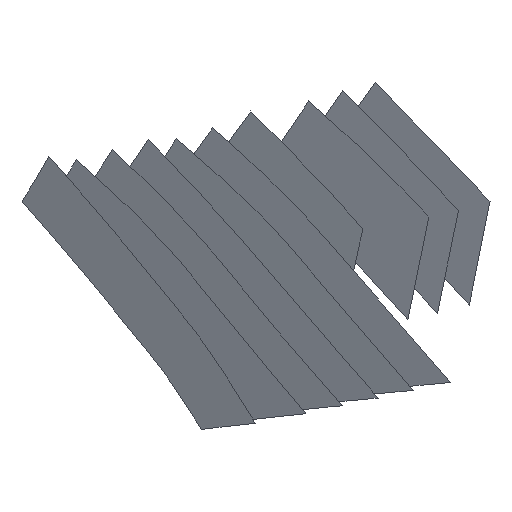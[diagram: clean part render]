
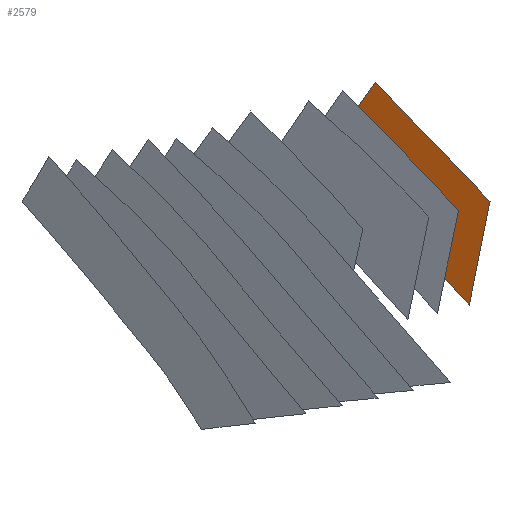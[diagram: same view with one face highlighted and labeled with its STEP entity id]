
A CAD part, front view. The second image highlights one B-rep face of the part: STEP entity #2579.
In plain terms, the highlighted free-form (B-spline) face has degree [1, 1] with [2, 2] control points.
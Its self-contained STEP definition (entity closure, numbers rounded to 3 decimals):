
#2579 = ADVANCED_FACE('',(#2580),#2593,.T.);
#2580 = FACE_BOUND('',#2581,.T.);
#2581 = EDGE_LOOP('',(#2582,#2603,#2617,#2631,#2645,#2659,#2673,#2687,
    #2701,#2715));
#2582 = ORIENTED_EDGE('',*,*,#2583,.T.);
#2583 = EDGE_CURVE('',#2584,#2586,#2588,.T.);
#2584 = VERTEX_POINT('',#2585);
#2585 = CARTESIAN_POINT('',(1572.326,-1531.356,
    1366.546));
#2586 = VERTEX_POINT('',#2587);
#2587 = CARTESIAN_POINT('',(1571.967,-1531.229,
    1366.931));
#2588 = SURFACE_CURVE('',#2589,(#2592),.PCURVE_S1.);
#2589 = B_SPLINE_CURVE_WITH_KNOTS('',1,(#2590,#2591),.UNSPECIFIED.,.F.,
  .F.,(2,2),(-0.541,-0.),.PIECEWISE_BEZIER_KNOTS.);
#2590 = CARTESIAN_POINT('',(1572.326,-1531.356,
    1366.546));
#2591 = CARTESIAN_POINT('',(1571.967,-1531.229,
    1366.931));
#2592 = PCURVE('',#2593,#2598);
#2593 = B_SPLINE_SURFACE_WITH_KNOTS('',1,1,(
    (#2594,#2595)
    ,(#2596,#2597
    )),.UNSPECIFIED.,.F.,.F.,.F.,(2,2),(2,2),(-4.96,
    5.332),(-4.087,3.538),
  .PIECEWISE_BEZIER_KNOTS.);
#2594 = CARTESIAN_POINT('',(1564.604,-1528.19,
    1371.4));
#2595 = CARTESIAN_POINT('',(1571.348,-1531.611,
    1372.381));
#2596 = CARTESIAN_POINT('',(1566.305,-1527.747,
    1361.258));
#2597 = CARTESIAN_POINT('',(1573.049,-1531.168,
    1362.24));
#2598 = DEFINITIONAL_REPRESENTATION('',(#2599),#2602);
#2599 = B_SPLINE_CURVE_WITH_KNOTS('',1,(#2600,#2601),.UNSPECIFIED.,.F.,
  .F.,(2,2),(-0.541,-0.),.PIECEWISE_BEZIER_KNOTS.);
#2600 = CARTESIAN_POINT('',(0.962,3.538));
#2601 = CARTESIAN_POINT('',(0.529,3.214));
#2602 = ( GEOMETRIC_REPRESENTATION_CONTEXT(2) 
PARAMETRIC_REPRESENTATION_CONTEXT() REPRESENTATION_CONTEXT('2D SPACE',''
  ) );
#2603 = ORIENTED_EDGE('',*,*,#2604,.T.);
#2604 = EDGE_CURVE('',#2586,#2605,#2607,.T.);
#2605 = VERTEX_POINT('',#2606);
#2606 = CARTESIAN_POINT('',(1570.098,-1530.563,
    1368.898));
#2607 = SURFACE_CURVE('',#2608,(#2611),.PCURVE_S1.);
#2608 = B_SPLINE_CURVE_WITH_KNOTS('',1,(#2609,#2610),.UNSPECIFIED.,.F.,
  .F.,(2,2),(0.,2.794),.PIECEWISE_BEZIER_KNOTS.);
#2609 = CARTESIAN_POINT('',(1571.967,-1531.229,
    1366.931));
#2610 = CARTESIAN_POINT('',(1570.098,-1530.563,
    1368.898));
#2611 = PCURVE('',#2593,#2612);
#2612 = DEFINITIONAL_REPRESENTATION('',(#2613),#2616);
#2613 = B_SPLINE_CURVE_WITH_KNOTS('',1,(#2614,#2615),.UNSPECIFIED.,.F.,
  .F.,(2,2),(0.,2.794),.PIECEWISE_BEZIER_KNOTS.);
#2614 = CARTESIAN_POINT('',(0.529,3.214));
#2615 = CARTESIAN_POINT('',(-1.69,1.515));
#2616 = ( GEOMETRIC_REPRESENTATION_CONTEXT(2) 
PARAMETRIC_REPRESENTATION_CONTEXT() REPRESENTATION_CONTEXT('2D SPACE',''
  ) );
#2617 = ORIENTED_EDGE('',*,*,#2618,.T.);
#2618 = EDGE_CURVE('',#2605,#2619,#2621,.T.);
#2619 = VERTEX_POINT('',#2620);
#2620 = CARTESIAN_POINT('',(1567.276,-1529.545,
    1371.789));
#2621 = SURFACE_CURVE('',#2622,(#2625),.PCURVE_S1.);
#2622 = B_SPLINE_CURVE_WITH_KNOTS('',1,(#2623,#2624),.UNSPECIFIED.,.F.,
  .F.,(2,2),(0.,4.166),.PIECEWISE_BEZIER_KNOTS.);
#2623 = CARTESIAN_POINT('',(1570.098,-1530.563,
    1368.898));
#2624 = CARTESIAN_POINT('',(1567.276,-1529.545,
    1371.789));
#2625 = PCURVE('',#2593,#2626);
#2626 = DEFINITIONAL_REPRESENTATION('',(#2627),#2630);
#2627 = B_SPLINE_CURVE_WITH_KNOTS('',1,(#2628,#2629),.UNSPECIFIED.,.F.,
  .F.,(2,2),(0.,4.166),.PIECEWISE_BEZIER_KNOTS.);
#2628 = CARTESIAN_POINT('',(-1.69,1.515));
#2629 = CARTESIAN_POINT('',(-4.96,-1.066));
#2630 = ( GEOMETRIC_REPRESENTATION_CONTEXT(2) 
PARAMETRIC_REPRESENTATION_CONTEXT() REPRESENTATION_CONTEXT('2D SPACE',''
  ) );
#2631 = ORIENTED_EDGE('',*,*,#2632,.T.);
#2632 = EDGE_CURVE('',#2619,#2633,#2635,.T.);
#2633 = VERTEX_POINT('',#2634);
#2634 = CARTESIAN_POINT('',(1566.555,-1529.065,
    1370.772));
#2635 = SURFACE_CURVE('',#2636,(#2639),.PCURVE_S1.);
#2636 = B_SPLINE_CURVE_WITH_KNOTS('',1,(#2637,#2638),.UNSPECIFIED.,.F.,
  .F.,(2,2),(0.,1.335),.PIECEWISE_BEZIER_KNOTS.);
#2637 = CARTESIAN_POINT('',(1567.276,-1529.545,
    1371.789));
#2638 = CARTESIAN_POINT('',(1566.555,-1529.065,
    1370.772));
#2639 = PCURVE('',#2593,#2640);
#2640 = DEFINITIONAL_REPRESENTATION('',(#2641),#2644);
#2641 = B_SPLINE_CURVE_WITH_KNOTS('',1,(#2642,#2643),.UNSPECIFIED.,.F.,
  .F.,(2,2),(0.,1.335),.PIECEWISE_BEZIER_KNOTS.);
#2642 = CARTESIAN_POINT('',(-4.96,-1.066));
#2643 = CARTESIAN_POINT('',(-4.057,-2.05));
#2644 = ( GEOMETRIC_REPRESENTATION_CONTEXT(2) 
PARAMETRIC_REPRESENTATION_CONTEXT() REPRESENTATION_CONTEXT('2D SPACE',''
  ) );
#2645 = ORIENTED_EDGE('',*,*,#2646,.T.);
#2646 = EDGE_CURVE('',#2633,#2647,#2649,.T.);
#2647 = VERTEX_POINT('',#2648);
#2648 = CARTESIAN_POINT('',(1565.467,-1528.342,
    1369.251));
#2649 = SURFACE_CURVE('',#2650,(#2653),.PCURVE_S1.);
#2650 = B_SPLINE_CURVE_WITH_KNOTS('',1,(#2651,#2652),.UNSPECIFIED.,.F.,
  .F.,(2,2),(0.,2.006),.PIECEWISE_BEZIER_KNOTS.);
#2651 = CARTESIAN_POINT('',(1566.555,-1529.065,
    1370.772));
#2652 = CARTESIAN_POINT('',(1565.467,-1528.342,
    1369.251));
#2653 = PCURVE('',#2593,#2654);
#2654 = DEFINITIONAL_REPRESENTATION('',(#2655),#2658);
#2655 = B_SPLINE_CURVE_WITH_KNOTS('',1,(#2656,#2657),.UNSPECIFIED.,.F.,
  .F.,(2,2),(0.,2.006),.PIECEWISE_BEZIER_KNOTS.);
#2656 = CARTESIAN_POINT('',(-4.057,-2.05));
#2657 = CARTESIAN_POINT('',(-2.707,-3.532));
#2658 = ( GEOMETRIC_REPRESENTATION_CONTEXT(2) 
PARAMETRIC_REPRESENTATION_CONTEXT() REPRESENTATION_CONTEXT('2D SPACE',''
  ) );
#2659 = ORIENTED_EDGE('',*,*,#2660,.T.);
#2660 = EDGE_CURVE('',#2647,#2661,#2663,.T.);
#2661 = VERTEX_POINT('',#2662);
#2662 = CARTESIAN_POINT('',(1565.065,-1528.069,
    1368.649));
#2663 = SURFACE_CURVE('',#2664,(#2667),.PCURVE_S1.);
#2664 = B_SPLINE_CURVE_WITH_KNOTS('',1,(#2665,#2666),.UNSPECIFIED.,.F.,
  .F.,(2,2),(0.,0.773),.PIECEWISE_BEZIER_KNOTS.);
#2665 = CARTESIAN_POINT('',(1565.467,-1528.342,
    1369.251));
#2666 = CARTESIAN_POINT('',(1565.065,-1528.069,
    1368.649));
#2667 = PCURVE('',#2593,#2668);
#2668 = DEFINITIONAL_REPRESENTATION('',(#2669),#2672);
#2669 = B_SPLINE_CURVE_WITH_KNOTS('',1,(#2670,#2671),.UNSPECIFIED.,.F.,
  .F.,(2,2),(0.,0.773),.PIECEWISE_BEZIER_KNOTS.);
#2670 = CARTESIAN_POINT('',(-2.707,-3.532));
#2671 = CARTESIAN_POINT('',(-2.168,-4.087));
#2672 = ( GEOMETRIC_REPRESENTATION_CONTEXT(2) 
PARAMETRIC_REPRESENTATION_CONTEXT() REPRESENTATION_CONTEXT('2D SPACE',''
  ) );
#2673 = ORIENTED_EDGE('',*,*,#2674,.T.);
#2674 = EDGE_CURVE('',#2661,#2675,#2677,.T.);
#2675 = VERTEX_POINT('',#2676);
#2676 = CARTESIAN_POINT('',(1567.651,-1529.001,
    1366.001));
#2677 = SURFACE_CURVE('',#2678,(#2681),.PCURVE_S1.);
#2678 = B_SPLINE_CURVE_WITH_KNOTS('',1,(#2679,#2680),.UNSPECIFIED.,.F.,
  .F.,(2,2),(0.,3.816),.PIECEWISE_BEZIER_KNOTS.);
#2679 = CARTESIAN_POINT('',(1565.065,-1528.069,
    1368.649));
#2680 = CARTESIAN_POINT('',(1567.651,-1529.001,
    1366.001));
#2681 = PCURVE('',#2593,#2682);
#2682 = DEFINITIONAL_REPRESENTATION('',(#2683),#2686);
#2683 = B_SPLINE_CURVE_WITH_KNOTS('',1,(#2684,#2685),.UNSPECIFIED.,.F.,
  .F.,(2,2),(0.,3.816),.PIECEWISE_BEZIER_KNOTS.);
#2684 = CARTESIAN_POINT('',(-2.168,-4.087));
#2685 = CARTESIAN_POINT('',(0.827,-1.724));
#2686 = ( GEOMETRIC_REPRESENTATION_CONTEXT(2) 
PARAMETRIC_REPRESENTATION_CONTEXT() REPRESENTATION_CONTEXT('2D SPACE',''
  ) );
#2687 = ORIENTED_EDGE('',*,*,#2688,.T.);
#2688 = EDGE_CURVE('',#2675,#2689,#2691,.T.);
#2689 = VERTEX_POINT('',#2690);
#2690 = CARTESIAN_POINT('',(1569.486,-1529.656,
    1364.069));
#2691 = SURFACE_CURVE('',#2692,(#2695),.PCURVE_S1.);
#2692 = B_SPLINE_CURVE_WITH_KNOTS('',1,(#2693,#2694),.UNSPECIFIED.,.F.,
  .F.,(2,2),(0.,2.744),.PIECEWISE_BEZIER_KNOTS.);
#2693 = CARTESIAN_POINT('',(1567.651,-1529.001,
    1366.001));
#2694 = CARTESIAN_POINT('',(1569.486,-1529.656,
    1364.069));
#2695 = PCURVE('',#2593,#2696);
#2696 = DEFINITIONAL_REPRESENTATION('',(#2697),#2700);
#2697 = B_SPLINE_CURVE_WITH_KNOTS('',1,(#2698,#2699),.UNSPECIFIED.,.F.,
  .F.,(2,2),(0.,2.744),.PIECEWISE_BEZIER_KNOTS.);
#2698 = CARTESIAN_POINT('',(0.827,-1.724));
#2699 = CARTESIAN_POINT('',(3.006,-0.055));
#2700 = ( GEOMETRIC_REPRESENTATION_CONTEXT(2) 
PARAMETRIC_REPRESENTATION_CONTEXT() REPRESENTATION_CONTEXT('2D SPACE',''
  ) );
#2701 = ORIENTED_EDGE('',*,*,#2702,.T.);
#2702 = EDGE_CURVE('',#2689,#2703,#2705,.T.);
#2703 = VERTEX_POINT('',#2704);
#2704 = CARTESIAN_POINT('',(1571.414,-1530.339,
    1362.002));
#2705 = SURFACE_CURVE('',#2706,(#2709),.PCURVE_S1.);
#2706 = B_SPLINE_CURVE_WITH_KNOTS('',1,(#2707,#2708),.UNSPECIFIED.,.F.,
  .F.,(2,2),(-2.908,-0.),.PIECEWISE_BEZIER_KNOTS.);
#2707 = CARTESIAN_POINT('',(1569.486,-1529.656,
    1364.069));
#2708 = CARTESIAN_POINT('',(1571.414,-1530.339,
    1362.002));
#2709 = PCURVE('',#2593,#2710);
#2710 = DEFINITIONAL_REPRESENTATION('',(#2711),#2714);
#2711 = B_SPLINE_CURVE_WITH_KNOTS('',1,(#2712,#2713),.UNSPECIFIED.,.F.,
  .F.,(2,2),(-2.908,-0.),.PIECEWISE_BEZIER_KNOTS.);
#2712 = CARTESIAN_POINT('',(3.006,-0.055));
#2713 = CARTESIAN_POINT('',(5.332,1.69));
#2714 = ( GEOMETRIC_REPRESENTATION_CONTEXT(2) 
PARAMETRIC_REPRESENTATION_CONTEXT() REPRESENTATION_CONTEXT('2D SPACE',''
  ) );
#2715 = ORIENTED_EDGE('',*,*,#2716,.T.);
#2716 = EDGE_CURVE('',#2703,#2584,#2717,.T.);
#2717 = SURFACE_CURVE('',#2718,(#2721),.PCURVE_S1.);
#2718 = B_SPLINE_CURVE_WITH_KNOTS('',1,(#2719,#2720),.UNSPECIFIED.,.F.,
  .F.,(2,2),(0.,4.746),.PIECEWISE_BEZIER_KNOTS.);
#2719 = CARTESIAN_POINT('',(1571.414,-1530.339,
    1362.002));
#2720 = CARTESIAN_POINT('',(1572.326,-1531.356,
    1366.546));
#2721 = PCURVE('',#2593,#2722);
#2722 = DEFINITIONAL_REPRESENTATION('',(#2723),#2726);
#2723 = B_SPLINE_CURVE_WITH_KNOTS('',1,(#2724,#2725),.UNSPECIFIED.,.F.,
  .F.,(2,2),(0.,4.746),.PIECEWISE_BEZIER_KNOTS.);
#2724 = CARTESIAN_POINT('',(5.332,1.69));
#2725 = CARTESIAN_POINT('',(0.962,3.538));
#2726 = ( GEOMETRIC_REPRESENTATION_CONTEXT(2) 
PARAMETRIC_REPRESENTATION_CONTEXT() REPRESENTATION_CONTEXT('2D SPACE',''
  ) );
